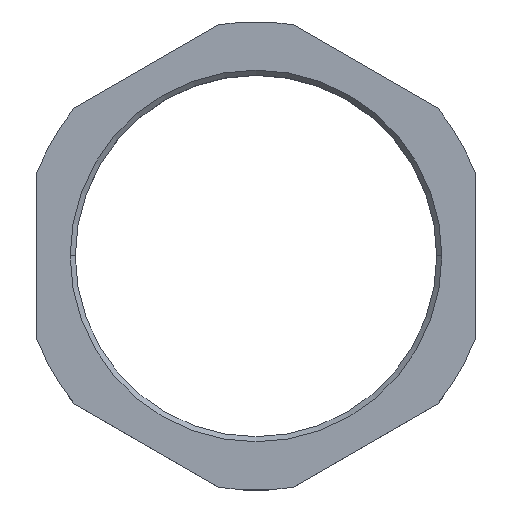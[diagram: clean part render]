
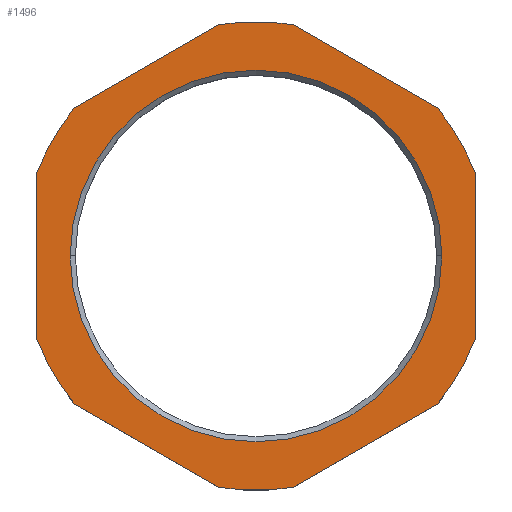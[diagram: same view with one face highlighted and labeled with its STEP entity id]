
A CAD part, top view. The second image highlights one B-rep face of the part: STEP entity #1496.
In plain terms, the highlighted planar face has unit normal (0, 0, 1).
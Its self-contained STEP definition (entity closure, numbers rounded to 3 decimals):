
#13 = CARTESIAN_POINT ( 'NONE',  ( 18.24, 0., 0. ) ) ;
#14 = CARTESIAN_POINT ( 'NONE',  ( 21.5, 8.17, 0. ) ) ;
#25 = CARTESIAN_POINT ( 'NONE',  ( 21.5, -12.413, 0. ) ) ;
#26 = LINE ( 'NONE', #25, #69 ) ;
#29 = DIRECTION ( 'NONE',  ( -1., 0., 0. ) ) ;
#30 = DIRECTION ( 'NONE',  ( 0., 0., -1. ) ) ;
#31 = CARTESIAN_POINT ( 'NONE',  ( 0., 0., 0. ) ) ;
#32 = AXIS2_PLACEMENT_3D ( 'NONE', #31, #30, #29 ) ;
#33 = CARTESIAN_POINT ( 'NONE',  ( 21.5, -8.17, 0. ) ) ;
#38 = DIRECTION ( 'NONE',  ( 0., 1., 0. ) ) ;
#40 = DIRECTION ( 'NONE',  ( -1., 0., 0. ) ) ;
#41 = DIRECTION ( 'NONE',  ( 0., 0., -1. ) ) ;
#42 = CARTESIAN_POINT ( 'NONE',  ( 0., 0., 0. ) ) ;
#43 = AXIS2_PLACEMENT_3D ( 'NONE', #42, #41, #40 ) ;
#53 = CIRCLE ( 'NONE', #43, 18.24 ) ;
#54 = CARTESIAN_POINT ( 'NONE',  ( -18.24, 0., 0. ) ) ;
#55 = CIRCLE ( 'NONE', #32, 18.24 ) ;
#69 = VECTOR ( 'NONE', #38, 1000. ) ;
#582 = CARTESIAN_POINT ( 'NONE',  ( -21.5, -8.17, 0. ) ) ;
#585 = LINE ( 'NONE', #593, #592 ) ;
#588 = DIRECTION ( 'NONE',  ( 0.866, -0.5, 0. ) ) ;
#589 = VECTOR ( 'NONE', #588, 1000. ) ;
#590 = CARTESIAN_POINT ( 'NONE',  ( -21.5, -12.413, 0. ) ) ;
#591 = DIRECTION ( 'NONE',  ( -0.866, -0.5, 0. ) ) ;
#592 = VECTOR ( 'NONE', #591, 1000. ) ;
#593 = CARTESIAN_POINT ( 'NONE',  ( 0., 24.826, 0. ) ) ;
#596 = LINE ( 'NONE', #590, #589 ) ;
#843 = CARTESIAN_POINT ( 'NONE',  ( 0., 0., 0. ) ) ;
#844 = AXIS2_PLACEMENT_3D ( 'NONE', #843, #847, #848 ) ;
#847 = DIRECTION ( 'NONE',  ( 0., 0., 1. ) ) ;
#848 = DIRECTION ( 'NONE',  ( 1., 0., 0. ) ) ;
#849 = CIRCLE ( 'NONE', #844, 23. ) ;
#850 = AXIS2_PLACEMENT_3D ( 'NONE', #856, #851, #862 ) ;
#851 = DIRECTION ( 'NONE',  ( 0., 0., 1. ) ) ;
#856 = CARTESIAN_POINT ( 'NONE',  ( 0., 0., 0. ) ) ;
#857 = FACE_OUTER_BOUND ( 'NONE', #1474, .T. ) ;
#858 = DIRECTION ( 'NONE',  ( 0.866, 0.5, 0. ) ) ;
#859 = VECTOR ( 'NONE', #858, 1000. ) ;
#860 = CARTESIAN_POINT ( 'NONE',  ( 0., -24.826, 0. ) ) ;
#861 = LINE ( 'NONE', #860, #859 ) ;
#862 = DIRECTION ( 'NONE',  ( 1., 0., 0. ) ) ;
#863 = CIRCLE ( 'NONE', #891, 23. ) ;
#864 = DIRECTION ( 'NONE',  ( 1., 0., 0. ) ) ;
#865 = DIRECTION ( 'NONE',  ( 1., 0., 0. ) ) ;
#866 = DIRECTION ( 'NONE',  ( 0., 0., 1. ) ) ;
#867 = AXIS2_PLACEMENT_3D ( 'NONE', #885, #866, #865 ) ;
#868 = CIRCLE ( 'NONE', #867, 23. ) ;
#869 = CIRCLE ( 'NONE', #850, 23. ) ;
#870 = CARTESIAN_POINT ( 'NONE',  ( 21.5, 12.413, 0. ) ) ;
#871 = LINE ( 'NONE', #870, #922 ) ;
#872 = DIRECTION ( 'NONE',  ( 1., 0., 0. ) ) ;
#873 = DIRECTION ( 'NONE',  ( 0., 0., 1. ) ) ;
#874 = CARTESIAN_POINT ( 'NONE',  ( 0., 0., 0. ) ) ;
#875 = AXIS2_PLACEMENT_3D ( 'NONE', #874, #873, #872 ) ;
#876 = CIRCLE ( 'NONE', #875, 23. ) ;
#877 = CARTESIAN_POINT ( 'NONE',  ( -17.825, 14.535, 0. ) ) ;
#878 = CARTESIAN_POINT ( 'NONE',  ( 17.825, 14.535, 0. ) ) ;
#880 = CARTESIAN_POINT ( 'NONE',  ( -3.675, 22.705, 0. ) ) ;
#881 = CARTESIAN_POINT ( 'NONE',  ( -17.825, -14.535, 0. ) ) ;
#884 = CARTESIAN_POINT ( 'NONE',  ( -3.675, -22.705, 0. ) ) ;
#885 = CARTESIAN_POINT ( 'NONE',  ( 0., 0., 0. ) ) ;
#886 = CARTESIAN_POINT ( 'NONE',  ( -21.5, 8.17, 0. ) ) ;
#888 = DIRECTION ( 'NONE',  ( 1., 0., 0. ) ) ;
#889 = DIRECTION ( 'NONE',  ( 0., 0., 1. ) ) ;
#890 = CARTESIAN_POINT ( 'NONE',  ( 0., 0., 0. ) ) ;
#891 = AXIS2_PLACEMENT_3D ( 'NONE', #890, #889, #888 ) ;
#892 = DIRECTION ( 'NONE',  ( 0., 0., 1. ) ) ;
#893 = CARTESIAN_POINT ( 'NONE',  ( 0., 0., 0. ) ) ;
#894 = AXIS2_PLACEMENT_3D ( 'NONE', #893, #892, #864 ) ;
#895 = CIRCLE ( 'NONE', #894, 23. ) ;
#896 = DIRECTION ( 'NONE',  ( 0., -1., 0. ) ) ;
#897 = VECTOR ( 'NONE', #896, 1000. ) ;
#898 = CARTESIAN_POINT ( 'NONE',  ( -21.5, 12.413, 0. ) ) ;
#899 = LINE ( 'NONE', #898, #897 ) ;
#917 = FACE_BOUND ( 'NONE', #1497, .T. ) ;
#918 = CARTESIAN_POINT ( 'NONE',  ( 17.825, -14.535, 0. ) ) ;
#919 = CARTESIAN_POINT ( 'NONE',  ( 3.675, -22.705, 0. ) ) ;
#920 = CARTESIAN_POINT ( 'NONE',  ( 3.675, 22.705, 0. ) ) ;
#921 = DIRECTION ( 'NONE',  ( -0.866, 0.5, 0. ) ) ;
#922 = VECTOR ( 'NONE', #921, 1000. ) ;
#931 = PLANE ( 'NONE',  #949 ) ;
#937 = DIRECTION ( 'NONE',  ( -1., 0., 0. ) ) ;
#949 = AXIS2_PLACEMENT_3D ( 'NONE', #963, #962, #937 ) ;
#962 = DIRECTION ( 'NONE',  ( 0., 0., -1. ) ) ;
#963 = CARTESIAN_POINT ( 'NONE',  ( 0., 0., 0. ) ) ;
#1187 = EDGE_CURVE ( 'NONE', #1194, #1199, #26, .T. ) ;
#1194 = VERTEX_POINT ( 'NONE', #33 ) ;
#1199 = VERTEX_POINT ( 'NONE', #14 ) ;
#1211 = EDGE_CURVE ( 'NONE', #1214, #1212, #55, .T. ) ;
#1212 = VERTEX_POINT ( 'NONE', #13 ) ;
#1214 = VERTEX_POINT ( 'NONE', #54 ) ;
#1216 = EDGE_CURVE ( 'NONE', #1212, #1214, #53, .T. ) ;
#1409 = ORIENTED_EDGE ( 'NONE', *, *, #1410, .T. ) ;
#1410 = EDGE_CURVE ( 'NONE', #1473, #1484, #585, .T. ) ;
#1414 = VERTEX_POINT ( 'NONE', #582 ) ;
#1415 = EDGE_CURVE ( 'NONE', #1471, #1468, #596, .T. ) ;
#1416 = ORIENTED_EDGE ( 'NONE', *, *, #1187, .T. ) ;
#1459 = EDGE_CURVE ( 'NONE', #1468, #1493, #849, .T. ) ;
#1462 = ORIENTED_EDGE ( 'NONE', *, *, #1465, .T. ) ;
#1463 = ORIENTED_EDGE ( 'NONE', *, *, #1467, .T. ) ;
#1464 = ORIENTED_EDGE ( 'NONE', *, *, #1476, .T. ) ;
#1465 = EDGE_CURVE ( 'NONE', #1493, #1494, #861, .T. ) ;
#1466 = VERTEX_POINT ( 'NONE', #886 ) ;
#1467 = EDGE_CURVE ( 'NONE', #1484, #1466, #868, .T. ) ;
#1468 = VERTEX_POINT ( 'NONE', #884 ) ;
#1471 = VERTEX_POINT ( 'NONE', #881 ) ;
#1472 = ORIENTED_EDGE ( 'NONE', *, *, #1479, .T. ) ;
#1473 = VERTEX_POINT ( 'NONE', #880 ) ;
#1474 = EDGE_LOOP ( 'NONE', ( #1409, #1463, #1464, #1478, #1492, #1495, #1462, #1472, #1416, #1487, #1489, #1485 ) ) ;
#1476 = EDGE_CURVE ( 'NONE', #1466, #1414, #899, .T. ) ;
#1477 = EDGE_CURVE ( 'NONE', #1199, #1483, #895, .T. ) ;
#1478 = ORIENTED_EDGE ( 'NONE', *, *, #1488, .T. ) ;
#1479 = EDGE_CURVE ( 'NONE', #1494, #1194, #863, .T. ) ;
#1483 = VERTEX_POINT ( 'NONE', #878 ) ;
#1484 = VERTEX_POINT ( 'NONE', #877 ) ;
#1485 = ORIENTED_EDGE ( 'NONE', *, *, #1486, .T. ) ;
#1486 = EDGE_CURVE ( 'NONE', #1491, #1473, #876, .T. ) ;
#1487 = ORIENTED_EDGE ( 'NONE', *, *, #1477, .T. ) ;
#1488 = EDGE_CURVE ( 'NONE', #1414, #1471, #869, .T. ) ;
#1489 = ORIENTED_EDGE ( 'NONE', *, *, #1490, .T. ) ;
#1490 = EDGE_CURVE ( 'NONE', #1483, #1491, #871, .T. ) ;
#1491 = VERTEX_POINT ( 'NONE', #920 ) ;
#1492 = ORIENTED_EDGE ( 'NONE', *, *, #1415, .T. ) ;
#1493 = VERTEX_POINT ( 'NONE', #919 ) ;
#1494 = VERTEX_POINT ( 'NONE', #918 ) ;
#1495 = ORIENTED_EDGE ( 'NONE', *, *, #1459, .T. ) ;
#1496 = ADVANCED_FACE ( 'NONE', ( #917, #857 ), #931, .F. ) ;
#1497 = EDGE_LOOP ( 'NONE', ( #1498, #1499 ) ) ;
#1498 = ORIENTED_EDGE ( 'NONE', *, *, #1216, .T. ) ;
#1499 = ORIENTED_EDGE ( 'NONE', *, *, #1211, .T. ) ;
